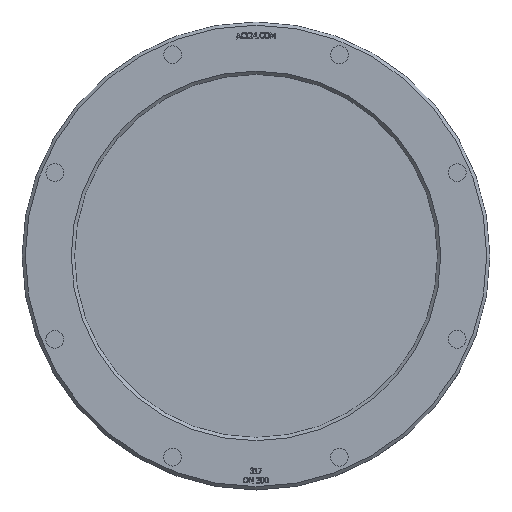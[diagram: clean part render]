
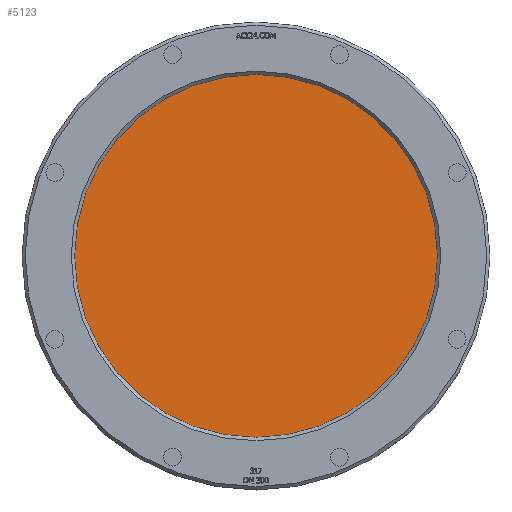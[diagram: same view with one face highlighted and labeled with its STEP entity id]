
A CAD part, top view. The second image highlights one B-rep face of the part: STEP entity #5123.
In plain terms, the highlighted planar face has unit normal (0, 0, 1).
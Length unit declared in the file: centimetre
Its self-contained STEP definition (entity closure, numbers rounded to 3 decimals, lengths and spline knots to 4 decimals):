
#1648=FACE_OUTER_BOUND('',#1932,.T.);
#1932=EDGE_LOOP('',(#3513));
#2263=CIRCLE('',#5410,11.25);
#2288=VERTEX_POINT('',#6445);
#2783=EDGE_CURVE('',#2288,#2288,#2263,.T.);
#3513=ORIENTED_EDGE('',*,*,#2783,.F.);
#4973=PLANE('',#5409);
#5123=ADVANCED_FACE('',(#1648),#4973,.F.);
#5409=AXIS2_PLACEMENT_3D('',#6444,#5600,#5601);
#5410=AXIS2_PLACEMENT_3D('',#6446,#5602,#5603);
#5600=DIRECTION('center_axis',(0.,0.,-1.));
#5601=DIRECTION('ref_axis',(-1.,0.,0.));
#5602=DIRECTION('center_axis',(0.,0.,-1.));
#5603=DIRECTION('ref_axis',(-1.,0.,0.));
#6444=CARTESIAN_POINT('Origin',(0.,0.,
2.65));
#6445=CARTESIAN_POINT('',(11.25,0.,2.65));
#6446=CARTESIAN_POINT('Origin',(0.,0.,
2.65));
